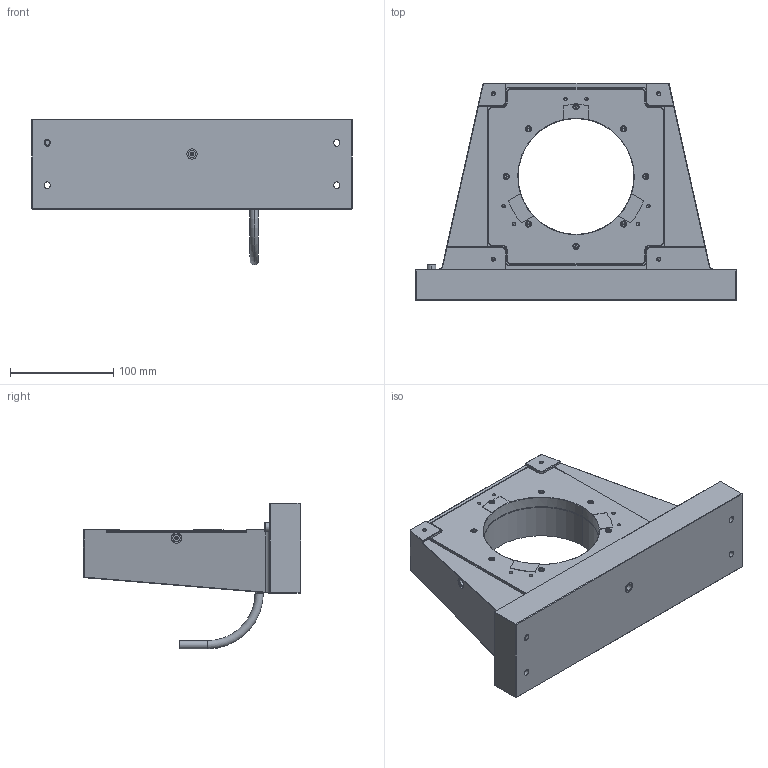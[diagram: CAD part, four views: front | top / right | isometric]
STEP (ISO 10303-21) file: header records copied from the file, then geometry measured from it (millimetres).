
FILE_DESCRIPTION (( 'STEP AP203' ), '1' );
FILE_NAME ('拏宒蚾饜极(諦誧)24.05.09.STEP', '2024-08-21T00:46:33', ( 'Windows User' ), ( 'P R C' ), 'SwSTEP 2.0', 'SolidWorks 2016', '' );
FILE_SCHEMA (( 'CONFIG_CONTROL_DESIGN' ));
Length unit declared in the file: millimetre
Products named in the file (1): 拏宒蚾饜极(諦誧)24.05.09
Bounding box: 310 x 210 x 141 mm (x, y, z)
Volume: 2230340.8 mm3; surface area: 241816.7 mm2
Topology: 20 solids, 20 shells, 983 faces, 2326 edges, 1414 vertices
Faces by surface type: plane 486, cylinder 308, cone 149, torus 36, bspline 4
Entity records: 28335 total; most frequent: CARTESIAN_POINT 5315, DIRECTION 5063, ORIENTED_EDGE 4512, EDGE_CURVE 2256, AXIS2_PLACEMENT_3D 1877, VERTEX_POINT 1414, VECTOR 1309, LINE 1309
